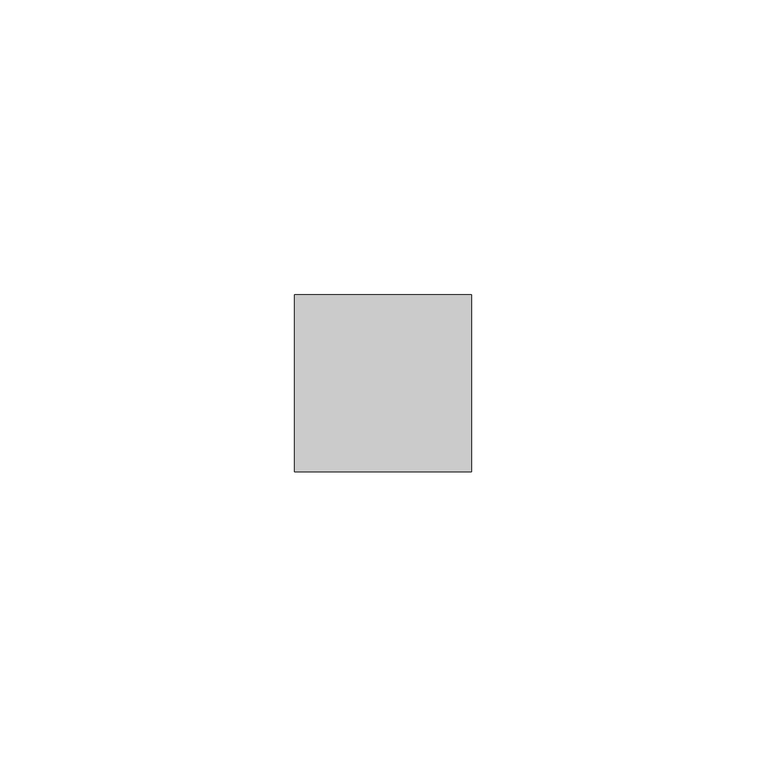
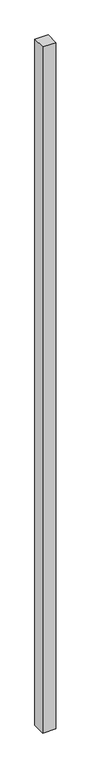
"""IFC4 building model written with IfcOpenShell, lengths in millimetres: member geometry, 矩形竖梃 : 30mm 正方形."""

from ifc_helpers import new_model, si_unit, frame, origin, place, context, project, spatial, polyline, outline, extrude, source, transform, mapped, element, save


def member_3c3f359b(model_context):
    return source(origin(), model_context, "Body", "SweptSolid", [
        extrude(outline(polyline([(0.0, 15.0), (0.0, -15.0), (-30.0, -15.0), (-30.0, 15.0), (0.0, 15.0)])), frame((0.0, 0.0, -1640.0), z_axis=(0.0, 0.0, 1.0), x_axis=(1.0, 0.0, 0.0)), (0.0, 0.0, 1.0), 1640.0),
    ])


if __name__ == "__main__":
    model = new_model("IFC4")
    model_context = context("Model", 3, world=origin())
    ifc_project = project(units=[si_unit("LENGTHUNIT", "METRE", prefix="MILLI")], contexts=[model_context])
    site = spatial("IfcSite", under=ifc_project)
    building = spatial("IfcBuilding", under=site)
    placement = place(None, origin())
    member_shape = member_3c3f359b(model_context)
    element("IfcMember", 1, ObjectType="矩形竖梃 : 30mm 正方形", at=placement, inside=building, context=model_context, shape_type="MappedRepresentation", body=[
        mapped(member_shape, transform((0.0, 0.0, 0.0), x_axis=(1.0, 0.0, 0.0), y_axis=(0.0, 1.0, 0.0), z_axis=(0.0, 0.0, 1.0))),
    ])
    save(model, "model.ifc")
